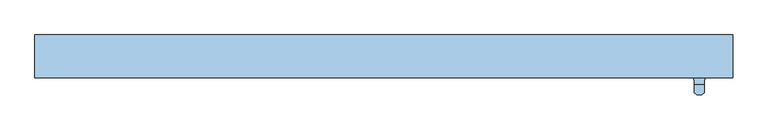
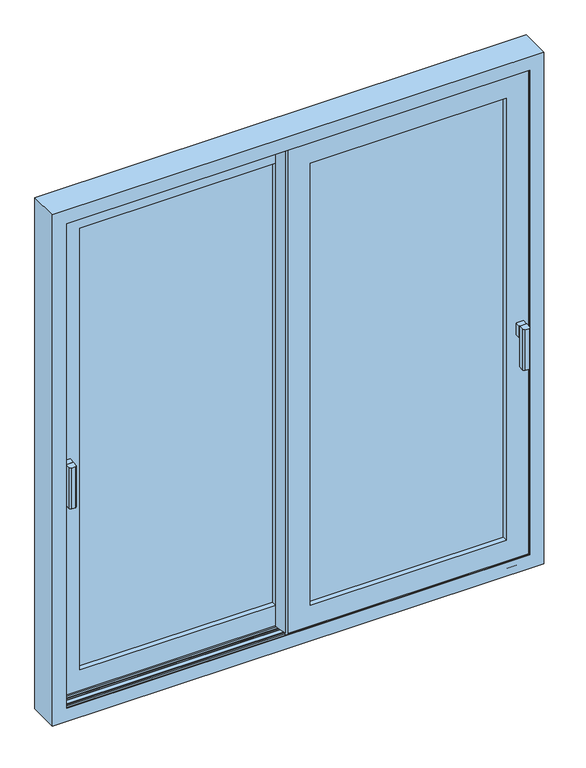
"""IFC4 building model written with IfcOpenShell, lengths in millimetres: window geometry, Windows_Opening-Slide_Exlabesa_ELEVABLE-GR-Balcony-2-Panel-Sliding : ELEVABLE_GR_2000x2000 mm Slide."""

from ifc_helpers import new_model, si_unit, point, frame, frame_2d, origin, place, context, project, spatial, polyline, circle_curve, ellipse_curve, trimmed, segment, composite_curve, outline, extrude, source, transform, mapped, element, save
from ifc_brep_helpers import plane_surface, cylinder_surface, revolved_surface, advanced_brep


def window_d831f5fb(model_context):
    return source(origin(), model_context, "Body", "SolidModel", [
        extrude(outline(composite_curve([segment(trimmed(circle_curve(frame_2d((-147.2565194, 380.4626103)), 200.0), [point((45.9189448, 432.2626103))], [point((52.7425806, 379.8626103))], False, "CARTESIAN"), True, "CONTINUOUS"), segment(polyline([(52.7425806, 379.8626103), (-33.4565194, 379.8626103), (-33.4565194, 333.8344537), (-45.9189448, 333.8344537)]), True, "CONTINUOUS"), segment(trimmed(circle_curve(frame_2d((147.2565194, 385.6344537)), 200.0), [point((-45.9189448, 333.8344537))], [point((-52.7425806, 386.2344537))], False, "CARTESIAN"), True, "CONTINUOUS"), segment(polyline([(-52.7425806, 386.2344537), (33.4565194, 386.2344537), (33.4565194, 432.2626103), (45.9189448, 432.2626103)]), True, "CONTINUOUS")], self_intersect=False)), frame((0.0, 0.0, 60.0), z_axis=(0.0, 0.0, 1.0), x_axis=(1.0, 0.0, 0.0)), (0.0, 0.0, 1.0), 2080.0),
        advanced_brep(
        [(-13.56, 333.798532, 2117.0), (-13.56, 341.048532, 2117.0), (-13.56, 341.048532, 83.0), (-13.56, 333.798532, 83.0), (917.0, 341.048532, 2117.0), (917.0, 341.048532, 83.0), (9.94, 341.048532, 2093.5), (9.94, 341.048532, 106.5), (893.5, 341.048532, 106.5), (893.5, 341.048532, 2093.5), (917.0, 333.798532, 83.0), (949.4076311, 333.798532, 2149.4076311), (949.4076311, 333.798532, 50.5923689), (-45.9676311, 333.798532, 50.5923689), (-45.9676311, 333.798532, 2149.4076311), (917.0, 333.798532, 2117.0), (-36.4282391, 326.798532, 2139.8682391), (-36.4282391, 326.798532, 60.1317609), (939.8682391, 326.798532, 60.1317609), (939.8682391, 326.798532, 2139.8682391), (850.7, 326.798532, 2050.7), (850.7, 326.798532, 149.3), (52.74, 326.798532, 149.3), (52.74, 326.798532, 2050.7), (850.7, 347.798532, 149.3), (850.7, 347.798532, 2050.7), (52.74, 347.798532, 149.3), (52.74, 347.798532, 2050.7), (858.9, 347.798532, 2058.9), (858.9, 347.798532, 141.1), (44.54, 347.798532, 141.1), (44.54, 347.798532, 2058.9), (44.54, 344.798532, 2058.9), (44.54, 344.798532, 141.1), (858.9, 344.798532, 141.1), (872.7, 344.798532, 2072.7), (872.7, 344.798532, 127.3), (30.74, 344.798532, 127.3), (30.74, 344.798532, 2072.7), (858.9, 344.798532, 2058.9), (30.74, 348.898532, 2072.7), (30.74, 348.898532, 127.3), (872.7, 348.898532, 127.3), (877.2, 348.898532, 2077.2), (877.2, 348.898532, 122.8), (26.24, 348.898532, 122.8), (26.24, 348.898532, 2077.2), (872.7, 348.898532, 2072.7), (26.24, 372.298532, 2077.2), (26.24, 372.298532, 122.8), (877.2, 372.298532, 122.8), (877.2, 372.298532, 2077.2), (850.7, 372.298532, 2050.7), (850.7, 372.298532, 149.3), (52.74, 372.298532, 149.3), (52.74, 372.298532, 2050.7), (52.74, 377.298532, 2050.7), (52.74, 377.298532, 149.3), (850.7, 377.298532, 149.3), (939.8682391, 377.298532, 2139.8682391), (939.8682391, 377.298532, 60.1317609), (-36.4282391, 377.298532, 60.1317609), (-36.4282391, 377.298532, 2139.8682391), (850.7, 377.298532, 2050.7), (-45.9676311, 370.298532, 2149.4076311), (-45.9676311, 370.298532, 50.5923689), (949.4076311, 370.298532, 50.5923689), (949.4076311, 370.298532, 2149.4076311), (917.0, 370.298532, 2117.0), (917.0, 370.298532, 83.0), (-13.56, 370.298532, 83.0), (-13.56, 370.298532, 2117.0), (917.0, 363.048532, 83.0), (917.0, 363.048532, 2117.0), (-13.56, 363.048532, 83.0), (-13.56, 363.048532, 2117.0), (893.5, 363.048532, 2093.5), (893.5, 363.048532, 106.5), (9.94, 363.048532, 106.5), (9.94, 363.048532, 2093.5)],
        [
            (0, 1),
            (1, 2),
            (2, 3),
            (3, 0),
            (4, 5),
            (5, 2),
            (1, 4),
            (6, 7),
            (7, 8),
            (8, 9),
            (9, 6),
            (5, 10),
            (10, 3),
            (11, 12),
            (12, 13),
            (13, 14),
            (14, 11),
            (10, 15),
            (15, 0),
            (4, 15),
            (16, 17),
            (17, 18),
            (18, 19),
            (19, 16),
            (20, 21),
            (21, 22),
            (22, 23),
            (23, 20),
            (16, 14, ellipse_curve(frame((-36.4282391, 336.798532, 2139.8682391), z_axis=(-0.7071067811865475, 0.0, -0.7071067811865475), x_axis=(-0.7071067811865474, 0.0, 0.7071067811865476)), 14.1421356, 10.0)),
            (13, 17, ellipse_curve(frame((-36.4282391, 336.798532, 60.1317609), z_axis=(-0.7071067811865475, 0.0, 0.7071067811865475), x_axis=(0.7071067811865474, 0.0, 0.7071067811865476)), 14.1421356, 10.0)),
            (12, 18, ellipse_curve(frame((939.8682391, 336.798532, 60.1317609), z_axis=(-0.7071067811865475, 0.0, -0.7071067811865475), x_axis=(-0.7071067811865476, 0.0, 0.7071067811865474)), 14.1421356, 10.0)),
            (11, 19, ellipse_curve(frame((939.8682391, 336.798532, 2139.8682391), z_axis=(0.7071067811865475, 0.0, -0.7071067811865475), x_axis=(-0.7071067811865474, 0.0, -0.7071067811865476)), 14.1421356, 10.0)),
            (24, 21),
            (20, 25),
            (25, 24),
            (26, 22),
            (24, 26),
            (27, 23),
            (26, 27),
            (28, 29),
            (29, 30),
            (30, 31),
            (31, 28),
            (25, 27),
            (32, 31),
            (30, 33),
            (33, 32),
            (29, 34),
            (34, 33),
            (35, 36),
            (36, 37),
            (37, 38),
            (38, 35),
            (34, 39),
            (39, 32),
            (40, 38),
            (37, 41),
            (41, 40),
            (36, 42),
            (42, 41),
            (43, 44),
            (44, 45),
            (45, 46),
            (46, 43),
            (42, 47),
            (47, 40),
            (48, 46),
            (45, 49),
            (49, 48),
            (44, 50),
            (50, 49),
            (50, 51),
            (51, 48),
            (52, 53),
            (53, 54),
            (54, 55),
            (55, 52),
            (56, 55),
            (54, 57),
            (57, 56),
            (53, 58),
            (58, 57),
            (59, 60),
            (60, 61),
            (61, 62),
            (62, 59),
            (58, 63),
            (63, 56),
            (64, 62, ellipse_curve(frame((-36.4282391, 367.298532, 2139.8682391), z_axis=(-0.7071067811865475, 0.0, -0.7071067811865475), x_axis=(-0.7071067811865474, 0.0, 0.7071067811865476)), 14.1421356, 10.0)),
            (61, 65, ellipse_curve(frame((-36.4282391, 367.298532, 60.1317609), z_axis=(-0.7071067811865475, 0.0, 0.7071067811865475), x_axis=(0.7071067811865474, 0.0, 0.7071067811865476)), 14.1421356, 10.0)),
            (65, 64),
            (60, 66, ellipse_curve(frame((939.8682391, 367.298532, 60.1317609), z_axis=(-0.7071067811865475, 0.0, -0.7071067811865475), x_axis=(-0.7071067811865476, 0.0, 0.7071067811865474)), 14.1421356, 10.0)),
            (66, 65),
            (66, 67),
            (67, 64),
            (68, 69),
            (69, 70),
            (70, 71),
            (71, 68),
            (28, 39),
            (35, 47),
            (43, 51),
            (52, 63),
            (59, 67, ellipse_curve(frame((939.8682391, 367.298532, 2139.8682391), z_axis=(0.7071067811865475, 0.0, -0.7071067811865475), x_axis=(-0.7071067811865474, 0.0, -0.7071067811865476)), 14.1421356, 10.0)),
            (72, 69),
            (68, 73),
            (73, 72),
            (74, 70),
            (72, 74),
            (75, 71),
            (74, 75),
            (73, 75),
            (76, 77),
            (77, 78),
            (78, 79),
            (79, 76),
            (6, 79),
            (78, 7),
            (77, 8),
            (76, 9),
        ],
        [
            plane_surface(frame((-13.56, 341.048532, 2117.0), z_axis=(-1.0, 0.0, 0.0), x_axis=(0.0, 0.0, -1.0))),
            plane_surface(frame((893.5, 341.048532, 106.5), z_axis=(0.0, 1.0, 0.0), x_axis=(0.0, 0.0, 1.0))),
            plane_surface(frame((-13.56, 341.048532, 83.0), z_axis=(0.0, 0.0, -1.0), x_axis=(1.0, 0.0, 0.0))),
            plane_surface(frame((917.0, 333.798532, 83.0), z_axis=(0.0, 1.0, 0.0), x_axis=(0.0, 0.0, 1.0))),
            plane_surface(frame((917.0, 341.048532, 83.0), z_axis=(1.0, 0.0, 0.0), x_axis=(0.0, 0.0, 1.0))),
            plane_surface(frame((939.8682391, 326.798532, 60.1317609), z_axis=(0.0, -1.0, 0.0), x_axis=(0.0, 0.0, 1.0))),
            cylinder_surface(frame((-36.4282391, 336.798532, 2200.0), z_axis=(0.0, 0.0, 1.0), x_axis=(1.0, 0.0, 0.0)), 10.0),
            cylinder_surface(frame((-96.56, 336.798532, 60.1317609), z_axis=(-1.0, 0.0, 0.0), x_axis=(0.0, 0.0, 1.0)), 10.0),
            cylinder_surface(frame((939.8682391, 336.798532, 0.0), z_axis=(0.0, 0.0, -1.0), x_axis=(-1.0, 0.0, 0.0)), 10.0),
            plane_surface(frame((850.7, 326.798532, 149.3), z_axis=(-1.0, 0.0, 0.0), x_axis=(0.0, 0.0, 1.0))),
            plane_surface(frame((52.74, 326.798532, 149.3), z_axis=(0.0, 0.0, 1.0), x_axis=(1.0, 0.0, 0.0))),
            plane_surface(frame((52.74, 326.798532, 2050.7), z_axis=(1.0, 0.0, 0.0), x_axis=(0.0, 0.0, -1.0))),
            plane_surface(frame((850.7, 347.798532, 149.3), z_axis=(0.0, 1.0, 0.0), x_axis=(0.0, 0.0, 1.0))),
            plane_surface(frame((44.54, 347.798532, 2058.9), z_axis=(-1.0, 0.0, 0.0), x_axis=(0.0, 0.0, -1.0))),
            plane_surface(frame((44.54, 347.798532, 141.1), z_axis=(0.0, 0.0, -1.0), x_axis=(1.0, 0.0, 0.0))),
            plane_surface(frame((858.9, 344.798532, 141.1), z_axis=(0.0, 1.0, 0.0), x_axis=(0.0, 0.0, 1.0))),
            plane_surface(frame((30.74, 344.798532, 2072.7), z_axis=(1.0, 0.0, 0.0), x_axis=(0.0, 0.0, -1.0))),
            plane_surface(frame((30.74, 344.798532, 127.3), z_axis=(0.0, 0.0, 1.0), x_axis=(1.0, 0.0, 0.0))),
            plane_surface(frame((872.7, 348.898532, 127.3), z_axis=(0.0, 1.0, 0.0), x_axis=(0.0, 0.0, 1.0))),
            plane_surface(frame((26.24, 348.898532, 2077.2), z_axis=(1.0, 0.0, 0.0), x_axis=(0.0, 0.0, -1.0))),
            plane_surface(frame((26.24, 348.898532, 122.8), z_axis=(0.0, 0.0, 1.0), x_axis=(1.0, 0.0, 0.0))),
            plane_surface(frame((877.2, 372.298532, 122.8), z_axis=(0.0, -1.0, 0.0), x_axis=(0.0, 0.0, 1.0))),
            plane_surface(frame((52.74, 372.298532, 2050.7), z_axis=(1.0, 0.0, 0.0), x_axis=(0.0, 0.0, -1.0))),
            plane_surface(frame((52.74, 372.298532, 149.3), z_axis=(0.0, 0.0, 1.0), x_axis=(1.0, 0.0, 0.0))),
            plane_surface(frame((850.7, 377.298532, 149.3), z_axis=(0.0, 1.0, 0.0), x_axis=(0.0, 0.0, 1.0))),
            cylinder_surface(frame((-36.4282391, 367.298532, 2200.0), z_axis=(0.0, 0.0, 1.0), x_axis=(1.0, 0.0, 0.0)), 10.0),
            cylinder_surface(frame((-96.56, 367.298532, 60.1317609), z_axis=(-1.0, 0.0, 0.0), x_axis=(0.0, 0.0, 1.0)), 10.0),
            plane_surface(frame((949.4076311, 370.298532, 50.5923689), z_axis=(0.0, -1.0, 0.0), x_axis=(0.0, 0.0, 1.0))),
            plane_surface(frame((858.9, 347.798532, 141.1), z_axis=(1.0, 0.0, 0.0), x_axis=(0.0, 0.0, 1.0))),
            plane_surface(frame((872.7, 344.798532, 127.3), z_axis=(-1.0, 0.0, 0.0), x_axis=(0.0, 0.0, 1.0))),
            plane_surface(frame((877.2, 348.898532, 122.8), z_axis=(-1.0, 0.0, 0.0), x_axis=(0.0, 0.0, 1.0))),
            plane_surface(frame((850.7, 372.298532, 149.3), z_axis=(-1.0, 0.0, 0.0), x_axis=(0.0, 0.0, 1.0))),
            cylinder_surface(frame((939.8682391, 367.298532, 0.0), z_axis=(0.0, 0.0, -1.0), x_axis=(-1.0, 0.0, 0.0)), 10.0),
            plane_surface(frame((917.0, 370.298532, 83.0), z_axis=(1.0, 0.0, 0.0), x_axis=(0.0, 0.0, 1.0))),
            plane_surface(frame((-13.56, 370.298532, 83.0), z_axis=(0.0, 0.0, -1.0), x_axis=(1.0, 0.0, 0.0))),
            plane_surface(frame((-13.56, 370.298532, 2117.0), z_axis=(-1.0, 0.0, 0.0), x_axis=(0.0, 0.0, -1.0))),
            plane_surface(frame((917.0, 363.048532, 83.0), z_axis=(0.0, -1.0, 0.0), x_axis=(0.0, 0.0, 1.0))),
            plane_surface(frame((9.94, 363.048532, 2093.5), z_axis=(-1.0, 0.0, 0.0), x_axis=(0.0, 0.0, -1.0))),
            plane_surface(frame((9.94, 363.048532, 106.5), z_axis=(0.0, 0.0, -1.0), x_axis=(1.0, 0.0, 0.0))),
            plane_surface(frame((893.5, 363.048532, 106.5), z_axis=(1.0, 0.0, 0.0), x_axis=(0.0, 0.0, 1.0))),
            plane_surface(frame((917.0, 341.048532, 2117.0), z_axis=(0.0, 0.0, 1.0), x_axis=(-1.0, 0.0, 0.0))),
            plane_surface(frame((850.7, 326.798532, 2050.7), z_axis=(0.0, 0.0, -1.0), x_axis=(-1.0, 0.0, 0.0))),
            plane_surface(frame((858.9, 347.798532, 2058.9), z_axis=(0.0, 0.0, 1.0), x_axis=(-1.0, 0.0, 0.0))),
            plane_surface(frame((872.7, 344.798532, 2072.7), z_axis=(0.0, 0.0, -1.0), x_axis=(-1.0, 0.0, 0.0))),
            plane_surface(frame((877.2, 348.898532, 2077.2), z_axis=(0.0, 0.0, -1.0), x_axis=(-1.0, 0.0, 0.0))),
            plane_surface(frame((850.7, 372.298532, 2050.7), z_axis=(0.0, 0.0, -1.0), x_axis=(-1.0, 0.0, 0.0))),
            cylinder_surface(frame((1000.0, 367.298532, 2139.8682391), z_axis=(1.0, 0.0, 0.0), x_axis=(0.0, 0.0, -1.0)), 10.0),
            cylinder_surface(frame((1000.0, 336.798532, 2139.8682391), z_axis=(1.0, 0.0, 0.0), x_axis=(0.0, 0.0, -1.0)), 10.0),
            plane_surface(frame((917.0, 370.298532, 2117.0), z_axis=(0.0, 0.0, 1.0), x_axis=(-1.0, 0.0, 0.0))),
            plane_surface(frame((893.5, 363.048532, 2093.5), z_axis=(0.0, 0.0, 1.0), x_axis=(-1.0, 0.0, 0.0))),
        ],
        [
            (0, [[1, 2, 3, 4]]),
            (1, [[5, 6, -2, 7], [8, 9, 10, 11]]),
            (2, [[-3, -6, 12, 13]]),
            (3, [[14, 15, 16, 17], [-4, -13, 18, 19]]),
            (4, [[-12, -5, 20, -18]]),
            (5, [[21, 22, 23, 24], [25, 26, 27, 28]]),
            (6, [[29, -16, 30, -21]]),
            (7, [[-30, -15, 31, -22]]),
            (8, [[-31, -14, 32, -23]]),
            (9, [[33, -25, 34, 35]]),
            (10, [[36, -26, -33, 37]]),
            (11, [[38, -27, -36, 39]]),
            (12, [[40, 41, 42, 43], [-39, -37, -35, 44]]),
            (13, [[45, -42, 46, 47]]),
            (14, [[-46, -41, 48, 49]]),
            (15, [[50, 51, 52, 53], [-47, -49, 54, 55]]),
            (16, [[56, -52, 57, 58]]),
            (17, [[-57, -51, 59, 60]]),
            (18, [[61, 62, 63, 64], [-58, -60, 65, 66]]),
            (19, [[67, -63, 68, 69]]),
            (20, [[-68, -62, 70, 71]]),
            (21, [[-69, -71, 72, 73], [74, 75, 76, 77]]),
            (22, [[78, -76, 79, 80]]),
            (23, [[-79, -75, 81, 82]]),
            (24, [[83, 84, 85, 86], [-80, -82, 87, 88]]),
            (25, [[89, -85, 90, 91]]),
            (26, [[-90, -84, 92, 93]]),
            (27, [[-91, -93, 94, 95], [96, 97, 98, 99]]),
            (28, [[-48, -40, 100, -54]]),
            (29, [[-59, -50, 101, -65]]),
            (30, [[-70, -61, 102, -72]]),
            (31, [[-81, -74, 103, -87]]),
            (32, [[-92, -83, 104, -94]]),
            (33, [[105, -96, 106, 107]]),
            (34, [[108, -97, -105, 109]]),
            (35, [[110, -98, -108, 111]]),
            (36, [[-111, -109, -107, 112], [113, 114, 115, 116]]),
            (37, [[117, -115, 118, -8]]),
            (38, [[-118, -114, 119, -9]]),
            (39, [[-119, -113, 120, -10]]),
            (40, [[-20, -7, -1, -19]]),
            (41, [[-34, -28, -38, -44]]),
            (42, [[-100, -43, -45, -55]]),
            (43, [[-101, -53, -56, -66]]),
            (44, [[-102, -64, -67, -73]]),
            (45, [[-103, -77, -78, -88]]),
            (46, [[-104, -86, -89, -95]]),
            (47, [[-32, -17, -29, -24]]),
            (48, [[-106, -99, -110, -112]]),
            (49, [[-120, -116, -117, -11]]),
        ],
    ),
        advanced_brep(
        [(-1000.0, 321.548532, 2200.0), (-1000.0, 444.548532, 2200.0), (-1000.0, 444.548532, 0.0), (-1000.0, 321.548532, 0.0), (1000.0, 444.548532, 2200.0), (1000.0, 444.548532, 0.0), (-972.7679492, 444.548532, 2172.7679492), (-972.7679492, 444.548532, 27.2320508), (972.7679492, 444.548532, 27.2320508), (972.7679492, 444.548532, 2172.7679492), (1000.0, 321.548532, 0.0), (1000.0, 321.548532, 2200.0), (942.0, 321.548532, 2142.0), (942.0, 321.548532, 58.0), (-942.0, 321.548532, 58.0), (-942.0, 321.548532, 2142.0), (-960.2971834, 422.948532, 2160.2971834), (-960.2971834, 422.948532, 39.7028166), (960.2971834, 422.948532, 39.7028166), (960.2971834, 422.948532, 2160.2971834), (-942.0, 323.348532, 2142.0), (-942.0, 323.348532, 58.0), (942.0, 323.348532, 58.0), (968.0, 323.348532, 2168.0), (968.0, 323.348532, 32.0), (-968.0, 323.348532, 32.0), (-968.0, 323.348532, 2168.0), (942.0, 323.348532, 2142.0), (-969.7320508, 326.348532, 2169.7320508), (-969.7320508, 326.348532, 30.2679492), (969.7320508, 326.348532, 30.2679492), (-960.0325663, 343.148532, 2160.0325663), (-960.0325663, 343.148532, 39.9674337), (960.0325663, 343.148532, 39.9674337), (960.0325663, 343.148532, 2160.0325663), (945.0, 343.148532, 2145.0), (945.0, 343.148532, 55.0), (-945.0, 343.148532, 55.0), (-945.0, 343.148532, 2145.0), (-945.0, 336.798532, 2145.0), (-945.0, 336.798532, 55.0), (945.0, 336.798532, 55.0), (945.0, 336.798532, 2145.0), (940.0, 336.798532, 2140.0), (940.0, 336.798532, 60.0), (-940.0, 336.798532, 60.0), (-940.0, 336.798532, 2140.0), (-940.0, 341.748532, 2140.0), (-940.0, 341.748532, 60.0), (940.0, 341.748532, 60.0), (942.0, 341.748532, 2142.0), (942.0, 341.748532, 58.0), (-942.0, 341.748532, 58.0), (-942.0, 341.748532, 2142.0), (940.0, 341.748532, 2140.0), (-942.0, 362.348532, 2142.0), (-942.0, 362.348532, 58.0), (942.0, 362.348532, 58.0), (942.0, 362.348532, 2142.0), (940.0, 362.348532, 2140.0), (940.0, 362.348532, 60.0), (-940.0, 362.348532, 60.0), (-940.0, 362.348532, 2140.0), (-940.0, 367.298532, 2140.0), (-940.0, 367.298532, 60.0), (940.0, 367.298532, 60.0), (945.0, 367.298532, 2145.0), (945.0, 367.298532, 55.0), (-945.0, 367.298532, 55.0), (-945.0, 367.298532, 2145.0), (940.0, 367.298532, 2140.0), (-945.0, 362.748532, 2145.0), (-945.0, 362.748532, 55.0), (945.0, 362.748532, 55.0), (964.5240287, 362.748532, 2164.5240287), (964.5240287, 362.748532, 35.4759713), (-964.5240287, 362.748532, 35.4759713), (-964.5240287, 362.748532, 2164.5240287), (945.0, 362.748532, 2145.0), (-965.2327287, 403.348532, 2165.2327287), (-965.2327287, 403.348532, 34.7672713), (965.2327287, 403.348532, 34.7672713), (965.2327287, 403.348532, 2165.2327287), (945.0, 403.348532, 2145.0), (945.0, 403.348532, 55.0), (-945.0, 403.348532, 55.0), (-945.0, 403.348532, 2145.0), (-945.0, 398.798532, 2145.0), (-945.0, 398.798532, 55.0), (945.0, 398.798532, 55.0), (945.0, 398.798532, 2145.0), (940.0, 398.798532, 2140.0), (940.0, 398.798532, 60.0), (-940.0, 398.798532, 60.0), (-940.0, 398.798532, 2140.0), (-940.0, 403.748532, 2140.0), (-940.0, 403.748532, 60.0), (940.0, 403.748532, 60.0), (942.0, 403.748532, 2142.0), (942.0, 403.748532, 58.0), (-942.0, 403.748532, 58.0), (-942.0, 403.748532, 2142.0), (940.0, 403.748532, 2140.0), (-942.0, 424.348532, 2142.0), (-942.0, 424.348532, 58.0), (942.0, 424.348532, 58.0), (942.0, 424.348532, 2142.0), (940.0, 424.348532, 2140.0), (940.0, 424.348532, 60.0), (-940.0, 424.348532, 60.0), (-940.0, 424.348532, 2140.0), (-940.0, 429.298532, 2140.0), (-940.0, 429.298532, 60.0), (940.0, 429.298532, 60.0), (945.0, 429.298532, 2145.0), (945.0, 429.298532, 55.0), (-945.0, 429.298532, 55.0), (-945.0, 429.298532, 2145.0), (940.0, 429.298532, 2140.0), (-945.0, 422.948532, 2145.0), (-945.0, 422.948532, 55.0), (945.0, 422.948532, 55.0), (945.0, 422.948532, 2145.0), (969.7320508, 326.348532, 2169.7320508)],
        [
            (0, 1),
            (1, 2),
            (2, 3),
            (3, 0),
            (4, 5),
            (5, 2),
            (1, 4),
            (6, 7),
            (7, 8),
            (8, 9),
            (9, 6),
            (5, 10),
            (10, 3),
            (10, 11),
            (11, 0),
            (12, 13),
            (13, 14),
            (14, 15),
            (15, 12),
            (4, 11),
            (6, 16),
            (16, 17),
            (17, 7),
            (17, 18),
            (18, 8),
            (18, 19),
            (19, 9),
            (20, 15),
            (14, 21),
            (21, 20),
            (13, 22),
            (22, 21),
            (23, 24),
            (24, 25),
            (25, 26),
            (26, 23),
            (22, 27),
            (27, 20),
            (28, 26, ellipse_curve(frame((-968.0, 325.348532, 2168.0), z_axis=(0.7071067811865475, 0.0, 0.7071067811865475), x_axis=(0.7071067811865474, 0.0, -0.7071067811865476)), 2.8284271, 2.0)),
            (25, 29, ellipse_curve(frame((-968.0, 325.348532, 32.0), z_axis=(0.7071067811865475, 0.0, -0.7071067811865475), x_axis=(-0.7071067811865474, 0.0, -0.7071067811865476)), 2.8284271, 2.0)),
            (29, 28),
            (24, 30, ellipse_curve(frame((968.0, 325.348532, 32.0), z_axis=(0.7071067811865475, 0.0, 0.7071067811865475), x_axis=(0.7071067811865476, 0.0, -0.7071067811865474)), 2.8284271, 2.0)),
            (30, 29),
            (31, 28),
            (29, 32),
            (32, 31),
            (30, 33),
            (33, 32),
            (33, 34),
            (34, 31),
            (35, 36),
            (36, 37),
            (37, 38),
            (38, 35),
            (39, 38),
            (37, 40),
            (40, 39),
            (36, 41),
            (41, 40),
            (41, 42),
            (42, 39),
            (43, 44),
            (44, 45),
            (45, 46),
            (46, 43),
            (47, 46),
            (45, 48),
            (48, 47),
            (44, 49),
            (49, 48),
            (50, 51),
            (51, 52),
            (52, 53),
            (53, 50),
            (49, 54),
            (54, 47),
            (55, 53),
            (52, 56),
            (56, 55),
            (51, 57),
            (57, 56),
            (57, 58),
            (58, 55),
            (59, 60),
            (60, 61),
            (61, 62),
            (62, 59),
            (63, 62),
            (61, 64),
            (64, 63),
            (60, 65),
            (65, 64),
            (66, 67),
            (67, 68),
            (68, 69),
            (69, 66),
            (65, 70),
            (70, 63),
            (71, 69),
            (68, 72),
            (72, 71),
            (67, 73),
            (73, 72),
            (74, 75),
            (75, 76),
            (76, 77),
            (77, 74),
            (73, 78),
            (78, 71),
            (79, 77),
            (76, 80),
            (80, 79),
            (75, 81),
            (81, 80),
            (81, 82),
            (82, 79),
            (83, 84),
            (84, 85),
            (85, 86),
            (86, 83),
            (87, 86),
            (85, 88),
            (88, 87),
            (84, 89),
            (89, 88),
            (89, 90),
            (90, 87),
            (91, 92),
            (92, 93),
            (93, 94),
            (94, 91),
            (95, 94),
            (93, 96),
            (96, 95),
            (92, 97),
            (97, 96),
            (98, 99),
            (99, 100),
            (100, 101),
            (101, 98),
            (97, 102),
            (102, 95),
            (103, 101),
            (100, 104),
            (104, 103),
            (99, 105),
            (105, 104),
            (105, 106),
            (106, 103),
            (107, 108),
            (108, 109),
            (109, 110),
            (110, 107),
            (111, 110),
            (109, 112),
            (112, 111),
            (108, 113),
            (113, 112),
            (114, 115),
            (115, 116),
            (116, 117),
            (117, 114),
            (113, 118),
            (118, 111),
            (119, 117),
            (116, 120),
            (120, 119),
            (115, 121),
            (121, 120),
            (16, 19),
            (121, 122),
            (122, 119),
            (12, 27),
            (23, 123, ellipse_curve(frame((968.0, 325.348532, 2168.0), z_axis=(-0.7071067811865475, 0.0, 0.7071067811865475), x_axis=(0.7071067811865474, 0.0, 0.7071067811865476)), 2.8284271, 2.0)),
            (123, 30),
            (123, 34),
            (35, 42),
            (43, 54),
            (50, 58),
            (59, 70),
            (66, 78),
            (74, 82),
            (83, 90),
            (91, 102),
            (98, 106),
            (107, 118),
            (114, 122),
            (28, 123),
        ],
        [
            plane_surface(frame((-1000.0, 444.548532, 2200.0), z_axis=(-1.0, 0.0, 0.0), x_axis=(0.0, 0.0, -1.0))),
            plane_surface(frame((972.7679492, 444.548532, 27.2320508), z_axis=(0.0, 1.0, 0.0), x_axis=(0.0, 0.0, 1.0))),
            plane_surface(frame((-1000.0, 444.548532, 0.0), z_axis=(0.0, 0.0, -1.0), x_axis=(1.0, 0.0, 0.0))),
            plane_surface(frame((1000.0, 321.548532, 0.0), z_axis=(0.0, -1.0, 0.0), x_axis=(0.0, 0.0, 1.0))),
            plane_surface(frame((1000.0, 444.548532, 0.0), z_axis=(1.0, 0.0, 0.0), x_axis=(0.0, 0.0, 1.0))),
            plane_surface(frame((-960.2971834, 422.948532, 2160.2971834), z_axis=(0.8660254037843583, 0.5000000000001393, 0.0), x_axis=(0.0, 0.0, -1.0))),
            plane_surface(frame((-960.2971834, 422.948532, 39.7028166), z_axis=(0.0, 0.5000000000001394, 0.8660254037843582), x_axis=(1.0, 0.0, 0.0))),
            plane_surface(frame((960.2971834, 422.948532, 39.7028166), z_axis=(-0.8660254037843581, 0.5000000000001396, 0.0), x_axis=(0.0, 0.0, 1.0))),
            plane_surface(frame((-942.0, 321.548532, 2142.0), z_axis=(1.0, 0.0, 0.0), x_axis=(0.0, 0.0, -1.0))),
            plane_surface(frame((-942.0, 321.548532, 58.0), z_axis=(0.0, 0.0, 1.0), x_axis=(1.0, 0.0, 0.0))),
            plane_surface(frame((942.0, 323.348532, 58.0), z_axis=(0.0, 1.0, 0.0), x_axis=(0.0, 0.0, 1.0))),
            revolved_surface(polyline([(-966.0, 325.348532, 30.000000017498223), (-966.0, 325.348532, 2169.999999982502)]), (-968.0, 325.348532, 2200.0), (0.0, 0.0, -1.0)),
            revolved_surface(polyline([(969.9999999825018, 325.348532, 34.0), (-969.9999999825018, 325.348532, 34.0)]), (-1000.0, 325.348532, 32.0), (1.0, 0.0, 0.0)),
            plane_surface(frame((-969.7320508, 326.348532, 2169.7320508), z_axis=(0.8660254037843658, -0.5000000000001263, 0.0), x_axis=(0.0, 0.0, -1.0))),
            plane_surface(frame((-969.7320508, 326.348532, 30.2679492), z_axis=(0.0, -0.5000000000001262, 0.8660254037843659), x_axis=(1.0, 0.0, 0.0))),
            plane_surface(frame((960.0325663, 343.148532, 39.9674337), z_axis=(0.0, -1.0, 0.0), x_axis=(0.0, 0.0, 1.0))),
            plane_surface(frame((-945.0, 343.148532, 2145.0), z_axis=(-1.0, 0.0, 0.0), x_axis=(0.0, 0.0, -1.0))),
            plane_surface(frame((-945.0, 343.148532, 55.0), z_axis=(0.0, 0.0, -1.0), x_axis=(1.0, 0.0, 0.0))),
            plane_surface(frame((945.0, 336.798532, 55.0), z_axis=(0.0, -1.0, 0.0), x_axis=(0.0, 0.0, 1.0))),
            plane_surface(frame((-940.0, 336.798532, 2140.0), z_axis=(1.0, 0.0, 0.0), x_axis=(0.0, 0.0, -1.0))),
            plane_surface(frame((-940.0, 336.798532, 60.0), z_axis=(0.0, 0.0, 1.0), x_axis=(1.0, 0.0, 0.0))),
            plane_surface(frame((940.0, 341.748532, 60.0), z_axis=(0.0, 1.0, 0.0), x_axis=(0.0, 0.0, 1.0))),
            plane_surface(frame((-942.0, 341.748532, 2142.0), z_axis=(1.0, 0.0, 0.0), x_axis=(0.0, 0.0, -1.0))),
            plane_surface(frame((-942.0, 341.748532, 58.0), z_axis=(0.0, 0.0, 1.0), x_axis=(1.0, 0.0, 0.0))),
            plane_surface(frame((942.0, 362.348532, 58.0), z_axis=(0.0, -1.0, 0.0), x_axis=(0.0, 0.0, 1.0))),
            plane_surface(frame((-940.0, 362.348532, 2140.0), z_axis=(1.0, 0.0, 0.0), x_axis=(0.0, 0.0, -1.0))),
            plane_surface(frame((-940.0, 362.348532, 60.0), z_axis=(0.0, 0.0, 1.0), x_axis=(1.0, 0.0, 0.0))),
            plane_surface(frame((940.0, 367.298532, 60.0), z_axis=(0.0, 1.0, 0.0), x_axis=(0.0, 0.0, 1.0))),
            plane_surface(frame((-945.0, 367.298532, 2145.0), z_axis=(-1.0, 0.0, 0.0), x_axis=(0.0, 0.0, -1.0))),
            plane_surface(frame((-945.0, 367.298532, 55.0), z_axis=(0.0, 0.0, -1.0), x_axis=(1.0, 0.0, 0.0))),
            plane_surface(frame((945.0, 362.748532, 55.0), z_axis=(0.0, 1.0, 0.0), x_axis=(0.0, 0.0, 1.0))),
            plane_surface(frame((-964.5240287, 362.748532, 2164.5240287), z_axis=(0.999847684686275, 0.01745300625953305, 0.0), x_axis=(0.0, 0.0, -1.0))),
            plane_surface(frame((-964.5240287, 362.748532, 35.4759713), z_axis=(0.0, 0.017453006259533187, 0.999847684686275), x_axis=(1.0, 0.0, 0.0))),
            plane_surface(frame((965.2327287, 403.348532, 34.7672713), z_axis=(0.0, -1.0, 0.0), x_axis=(0.0, 0.0, 1.0))),
            plane_surface(frame((-945.0, 403.348532, 2145.0), z_axis=(-1.0, 0.0, 0.0), x_axis=(0.0, 0.0, -1.0))),
            plane_surface(frame((-945.0, 403.348532, 55.0), z_axis=(0.0, 0.0, -1.0), x_axis=(1.0, 0.0, 0.0))),
            plane_surface(frame((945.0, 398.798532, 55.0), z_axis=(0.0, -1.0, 0.0), x_axis=(0.0, 0.0, 1.0))),
            plane_surface(frame((-940.0, 398.798532, 2140.0), z_axis=(1.0, 0.0, 0.0), x_axis=(0.0, 0.0, -1.0))),
            plane_surface(frame((-940.0, 398.798532, 60.0), z_axis=(0.0, 0.0, 1.0), x_axis=(1.0, 0.0, 0.0))),
            plane_surface(frame((940.0, 403.748532, 60.0), z_axis=(0.0, 1.0, 0.0), x_axis=(0.0, 0.0, 1.0))),
            plane_surface(frame((-942.0, 403.748532, 2142.0), z_axis=(1.0, 0.0, 0.0), x_axis=(0.0, 0.0, -1.0))),
            plane_surface(frame((-942.0, 403.748532, 58.0), z_axis=(0.0, 0.0, 1.0), x_axis=(1.0, 0.0, 0.0))),
            plane_surface(frame((942.0, 424.348532, 58.0), z_axis=(0.0, -1.0, 0.0), x_axis=(0.0, 0.0, 1.0))),
            plane_surface(frame((-940.0, 424.348532, 2140.0), z_axis=(1.0, 0.0, 0.0), x_axis=(0.0, 0.0, -1.0))),
            plane_surface(frame((-940.0, 424.348532, 60.0), z_axis=(0.0, 0.0, 1.0), x_axis=(1.0, 0.0, 0.0))),
            plane_surface(frame((940.0, 429.298532, 60.0), z_axis=(0.0, 1.0, 0.0), x_axis=(0.0, 0.0, 1.0))),
            plane_surface(frame((-945.0, 429.298532, 2145.0), z_axis=(-1.0, 0.0, 0.0), x_axis=(0.0, 0.0, -1.0))),
            plane_surface(frame((-945.0, 429.298532, 55.0), z_axis=(0.0, 0.0, -1.0), x_axis=(1.0, 0.0, 0.0))),
            plane_surface(frame((945.0, 422.948532, 55.0), z_axis=(0.0, 1.0, 0.0), x_axis=(0.0, 0.0, 1.0))),
            plane_surface(frame((942.0, 321.548532, 58.0), z_axis=(-1.0, 0.0, 0.0), x_axis=(0.0, 0.0, 1.0))),
            revolved_surface(polyline([(966.0, 325.348532, 2169.999999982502), (966.0, 325.348532, 30.0000000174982)]), (968.0, 325.348532, 0.0), (0.0, 0.0, 1.0)),
            plane_surface(frame((969.7320508, 326.348532, 30.2679492), z_axis=(-0.866025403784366, -0.5000000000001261, 0.0), x_axis=(0.0, 0.0, 1.0))),
            plane_surface(frame((945.0, 343.148532, 55.0), z_axis=(1.0, 0.0, 0.0), x_axis=(0.0, 0.0, 1.0))),
            plane_surface(frame((940.0, 336.798532, 60.0), z_axis=(-1.0, 0.0, 0.0), x_axis=(0.0, 0.0, 1.0))),
            plane_surface(frame((942.0, 341.748532, 58.0), z_axis=(-1.0, 0.0, 0.0), x_axis=(0.0, 0.0, 1.0))),
            plane_surface(frame((940.0, 362.348532, 60.0), z_axis=(-1.0, 0.0, 0.0), x_axis=(0.0, 0.0, 1.0))),
            plane_surface(frame((945.0, 367.298532, 55.0), z_axis=(1.0, 0.0, 0.0), x_axis=(0.0, 0.0, 1.0))),
            plane_surface(frame((964.5240287, 362.748532, 35.4759713), z_axis=(-0.999847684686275, 0.017453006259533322, 0.0), x_axis=(0.0, 0.0, 1.0))),
            plane_surface(frame((945.0, 403.348532, 55.0), z_axis=(1.0, 0.0, 0.0), x_axis=(0.0, 0.0, 1.0))),
            plane_surface(frame((940.0, 398.798532, 60.0), z_axis=(-1.0, 0.0, 0.0), x_axis=(0.0, 0.0, 1.0))),
            plane_surface(frame((942.0, 403.748532, 58.0), z_axis=(-1.0, 0.0, 0.0), x_axis=(0.0, 0.0, 1.0))),
            plane_surface(frame((940.0, 424.348532, 60.0), z_axis=(-1.0, 0.0, 0.0), x_axis=(0.0, 0.0, 1.0))),
            plane_surface(frame((945.0, 429.298532, 55.0), z_axis=(1.0, 0.0, 0.0), x_axis=(0.0, 0.0, 1.0))),
            plane_surface(frame((1000.0, 444.548532, 2200.0), z_axis=(0.0, 0.0, 1.0), x_axis=(-1.0, 0.0, 0.0))),
            plane_surface(frame((942.0, 321.548532, 2142.0), z_axis=(0.0, 0.0, -1.0), x_axis=(-1.0, 0.0, 0.0))),
            revolved_surface(polyline([(-969.9999999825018, 325.348532, 2166.0), (969.9999999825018, 325.348532, 2166.0)]), (1000.0, 325.348532, 2168.0), (-1.0, 0.0, 0.0)),
            plane_surface(frame((969.7320508, 326.348532, 2169.7320508), z_axis=(0.0, -0.5000000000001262, -0.8660254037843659), x_axis=(-1.0, 0.0, 0.0))),
            plane_surface(frame((945.0, 343.148532, 2145.0), z_axis=(0.0, 0.0, 1.0), x_axis=(-1.0, 0.0, 0.0))),
            plane_surface(frame((940.0, 336.798532, 2140.0), z_axis=(0.0, 0.0, -1.0), x_axis=(-1.0, 0.0, 0.0))),
            plane_surface(frame((942.0, 341.748532, 2142.0), z_axis=(0.0, 0.0, -1.0), x_axis=(-1.0, 0.0, 0.0))),
            plane_surface(frame((940.0, 362.348532, 2140.0), z_axis=(0.0, 0.0, -1.0), x_axis=(-1.0, 0.0, 0.0))),
            plane_surface(frame((945.0, 367.298532, 2145.0), z_axis=(0.0, 0.0, 1.0), x_axis=(-1.0, 0.0, 0.0))),
            plane_surface(frame((964.5240287, 362.748532, 2164.5240287), z_axis=(0.0, 0.017453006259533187, -0.999847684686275), x_axis=(-1.0, 0.0, 0.0))),
            plane_surface(frame((945.0, 403.348532, 2145.0), z_axis=(0.0, 0.0, 1.0), x_axis=(-1.0, 0.0, 0.0))),
            plane_surface(frame((940.0, 398.798532, 2140.0), z_axis=(0.0, 0.0, -1.0), x_axis=(-1.0, 0.0, 0.0))),
            plane_surface(frame((942.0, 403.748532, 2142.0), z_axis=(0.0, 0.0, -1.0), x_axis=(-1.0, 0.0, 0.0))),
            plane_surface(frame((940.0, 424.348532, 2140.0), z_axis=(0.0, 0.0, -1.0), x_axis=(-1.0, 0.0, 0.0))),
            plane_surface(frame((945.0, 429.298532, 2145.0), z_axis=(0.0, 0.0, 1.0), x_axis=(-1.0, 0.0, 0.0))),
            plane_surface(frame((960.2971834, 422.948532, 2160.2971834), z_axis=(0.0, 0.5000000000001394, -0.8660254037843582), x_axis=(-1.0, 0.0, 0.0))),
        ],
        [
            (0, [[1, 2, 3, 4]]),
            (1, [[5, 6, -2, 7], [8, 9, 10, 11]]),
            (2, [[-3, -6, 12, 13]]),
            (3, [[-4, -13, 14, 15], [16, 17, 18, 19]]),
            (4, [[-12, -5, 20, -14]]),
            (5, [[21, 22, 23, -8]]),
            (6, [[-23, 24, 25, -9]]),
            (7, [[-25, 26, 27, -10]]),
            (8, [[28, -18, 29, 30]]),
            (9, [[-29, -17, 31, 32]]),
            (10, [[33, 34, 35, 36], [-30, -32, 37, 38]]),
            (11, [[39, -35, 40, 41]]),
            (12, [[-40, -34, 42, 43]]),
            (13, [[44, -41, 45, 46]]),
            (14, [[-45, -43, 47, 48]]),
            (15, [[-46, -48, 49, 50], [51, 52, 53, 54]]),
            (16, [[55, -53, 56, 57]]),
            (17, [[-56, -52, 58, 59]]),
            (18, [[-57, -59, 60, 61], [62, 63, 64, 65]]),
            (19, [[66, -64, 67, 68]]),
            (20, [[-67, -63, 69, 70]]),
            (21, [[71, 72, 73, 74], [-68, -70, 75, 76]]),
            (22, [[77, -73, 78, 79]]),
            (23, [[-78, -72, 80, 81]]),
            (24, [[-79, -81, 82, 83], [84, 85, 86, 87]]),
            (25, [[88, -86, 89, 90]]),
            (26, [[-89, -85, 91, 92]]),
            (27, [[93, 94, 95, 96], [-90, -92, 97, 98]]),
            (28, [[99, -95, 100, 101]]),
            (29, [[-100, -94, 102, 103]]),
            (30, [[104, 105, 106, 107], [-101, -103, 108, 109]]),
            (31, [[110, -106, 111, 112]]),
            (32, [[-111, -105, 113, 114]]),
            (33, [[-112, -114, 115, 116], [117, 118, 119, 120]]),
            (34, [[121, -119, 122, 123]]),
            (35, [[-122, -118, 124, 125]]),
            (36, [[-123, -125, 126, 127], [128, 129, 130, 131]]),
            (37, [[132, -130, 133, 134]]),
            (38, [[-133, -129, 135, 136]]),
            (39, [[137, 138, 139, 140], [-134, -136, 141, 142]]),
            (40, [[143, -139, 144, 145]]),
            (41, [[-144, -138, 146, 147]]),
            (42, [[-145, -147, 148, 149], [150, 151, 152, 153]]),
            (43, [[154, -152, 155, 156]]),
            (44, [[-155, -151, 157, 158]]),
            (45, [[159, 160, 161, 162], [-156, -158, 163, 164]]),
            (46, [[165, -161, 166, 167]]),
            (47, [[-166, -160, 168, 169]]),
            (48, [[-26, -24, -22, 170], [-167, -169, 171, 172]]),
            (49, [[-31, -16, 173, -37]]),
            (50, [[-42, -33, 174, 175]]),
            (51, [[-47, -175, 176, -49]]),
            (52, [[-58, -51, 177, -60]]),
            (53, [[-69, -62, 178, -75]]),
            (54, [[-80, -71, 179, -82]]),
            (55, [[-91, -84, 180, -97]]),
            (56, [[-102, -93, 181, -108]]),
            (57, [[-113, -104, 182, -115]]),
            (58, [[-124, -117, 183, -126]]),
            (59, [[-135, -128, 184, -141]]),
            (60, [[-146, -137, 185, -148]]),
            (61, [[-157, -150, 186, -163]]),
            (62, [[-168, -159, 187, -171]]),
            (63, [[-20, -7, -1, -15]]),
            (64, [[-173, -19, -28, -38]]),
            (65, [[-174, -36, -39, 188]]),
            (66, [[-176, -188, -44, -50]]),
            (67, [[-177, -54, -55, -61]]),
            (68, [[-178, -65, -66, -76]]),
            (69, [[-179, -74, -77, -83]]),
            (70, [[-180, -87, -88, -98]]),
            (71, [[-181, -96, -99, -109]]),
            (72, [[-182, -107, -110, -116]]),
            (73, [[-183, -120, -121, -127]]),
            (74, [[-184, -131, -132, -142]]),
            (75, [[-185, -140, -143, -149]]),
            (76, [[-186, -153, -154, -164]]),
            (77, [[-187, -162, -165, -172]]),
            (78, [[-27, -170, -21, -11]]),
        ],
    ),
        extrude(outline(polyline([(918.7551549, 302.1960829), (918.7551549, 279.5458754), (912.286663, 273.0773836), (896.7631033, 273.0773836), (890.2946114, 279.5458754), (890.2946114, 302.1960829), (918.7551549, 302.1960829)])), frame((0.0, 0.0, 896.24), z_axis=(0.0, 0.0, 1.0), x_axis=(1.0, 0.0, 0.0)), (0.0, 0.0, 1.0), 175.0),
        extrude(outline(polyline([(918.8087599, 303.1987559), (917.4910378, 303.1987559), (917.4910378, 302.1960829), (891.5587285, 302.1960829), (891.5587285, 303.1987559), (890.2410064, 303.1987559), (888.9544282, 326.798532), (920.0455718, 326.798532), (918.8087599, 303.1987559)])), frame((0.0, 0.0, 1021.24), z_axis=(0.0, 0.0, 1.0), x_axis=(1.0, 0.0, 0.0)), (0.0, 0.0, 1.0), 50.0),
        extrude(outline(polyline([(-890.2697283, 364.1960829), (-890.2697283, 341.5458754), (-896.7382202, 335.0773836), (-912.2617798, 335.0773836), (-918.7302717, 341.5458754), (-918.7302717, 364.1960829), (-890.2697283, 364.1960829)])), frame((0.0, 0.0, 896.24), z_axis=(0.0, 0.0, 1.0), x_axis=(1.0, 0.0, 0.0)), (0.0, 0.0, 1.0), 175.0),
        extrude(outline(polyline([(-890.2161232, 365.1987559), (-891.5338454, 365.1987559), (-891.5338454, 364.1960829), (-917.4661546, 364.1960829), (-917.4661546, 365.1987559), (-918.7838768, 365.1987559), (-920.0704549, 388.798532), (-888.9793114, 388.798532), (-890.2161232, 365.1987559)])), frame((0.0, 0.0, 1021.24), z_axis=(0.0, 0.0, 1.0), x_axis=(1.0, 0.0, 0.0)), (0.0, 0.0, 1.0), 50.0),
        advanced_brep(
        [(13.56, 403.048532, 2117.0), (13.56, 395.798532, 2117.0), (13.56, 395.798532, 83.0), (13.56, 403.048532, 83.0), (45.9676311, 395.798532, 2149.4076311), (45.9676311, 395.798532, 50.5923689), (-949.4076311, 395.798532, 50.5923689), (-949.4076311, 395.798532, 2149.4076311), (-917.0, 395.798532, 2117.0), (-917.0, 395.798532, 83.0), (-917.0, 403.048532, 83.0), (-917.0, 403.048532, 2117.0), (-893.5, 403.048532, 2093.5), (-893.5, 403.048532, 106.5), (-9.94, 403.048532, 106.5), (-9.94, 403.048532, 2093.5), (-939.8682391, 388.798532, 2139.8682391), (-939.8682391, 388.798532, 60.1317609), (36.4282391, 388.798532, 60.1317609), (36.4282391, 388.798532, 2139.8682391), (-52.74, 388.798532, 2050.7), (-52.74, 388.798532, 149.3), (-850.7, 388.798532, 149.3), (-850.7, 388.798532, 2050.7), (-52.74, 409.798532, 2050.7), (-52.74, 409.798532, 149.3), (-850.7, 409.798532, 149.3), (-850.7, 409.798532, 2050.7), (36.4282391, 439.298532, 2139.8682391), (45.9676311, 432.298532, 2149.4076311), (45.9676311, 432.298532, 50.5923689), (36.4282391, 439.298532, 60.1317609), (-949.4076311, 432.298532, 2149.4076311), (-949.4076311, 432.298532, 50.5923689), (13.56, 432.298532, 2117.0), (13.56, 432.298532, 83.0), (-917.0, 432.298532, 83.0), (-917.0, 432.298532, 2117.0), (-939.8682391, 439.298532, 60.1317609), (-939.8682391, 439.298532, 2139.8682391), (-850.7, 439.298532, 2050.7), (-850.7, 439.298532, 149.3), (-52.74, 439.298532, 149.3), (-52.74, 439.298532, 2050.7), (-52.74, 434.298532, 2050.7), (-52.74, 434.298532, 149.3), (-850.7, 434.298532, 149.3), (-877.3, 434.298532, 2077.3), (-877.3, 434.298532, 122.7), (-26.14, 434.298532, 122.7), (-26.14, 434.298532, 2077.3), (-850.7, 434.298532, 2050.7), (-26.14, 410.898532, 2077.3), (-26.14, 410.898532, 122.7), (-877.3, 410.898532, 122.7), (-877.3, 410.898532, 2077.3), (-872.7, 410.898532, 2072.7), (-872.7, 410.898532, 127.3), (-30.74, 410.898532, 127.3), (-30.74, 410.898532, 2072.7), (-30.74, 406.798532, 2072.7), (-30.74, 406.798532, 127.3), (-872.7, 406.798532, 127.3), (-872.7, 406.798532, 2072.7), (-858.9, 406.798532, 2058.9), (-858.9, 406.798532, 141.1), (-44.54, 406.798532, 141.1), (-44.54, 406.798532, 2058.9), (-44.54, 409.798532, 2058.9), (-44.54, 409.798532, 141.1), (-858.9, 409.798532, 141.1), (-858.9, 409.798532, 2058.9), (13.56, 425.048532, 2117.0), (13.56, 425.048532, 83.0), (-917.0, 425.048532, 83.0), (-917.0, 425.048532, 2117.0), (-9.94, 425.048532, 2093.5), (-9.94, 425.048532, 106.5), (-893.5, 425.048532, 106.5), (-893.5, 425.048532, 2093.5)],
        [
            (0, 1),
            (1, 2),
            (2, 3),
            (3, 0),
            (4, 5),
            (5, 6),
            (6, 7),
            (7, 4),
            (8, 9),
            (9, 2),
            (1, 8),
            (9, 10),
            (10, 3),
            (10, 11),
            (11, 0),
            (12, 13),
            (13, 14),
            (14, 15),
            (15, 12),
            (8, 11),
            (16, 17),
            (17, 18),
            (18, 19),
            (19, 16),
            (20, 21),
            (21, 22),
            (22, 23),
            (23, 20),
            (20, 24),
            (24, 25),
            (25, 21),
            (25, 26),
            (26, 22),
            (26, 27),
            (27, 23),
            (6, 17, ellipse_curve(frame((-939.8682391, 398.798532, 60.1317609), z_axis=(-0.7071067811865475, 0.0, 0.7071067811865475), x_axis=(-0.7071067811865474, 0.0, -0.7071067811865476)), 14.1421356, 10.0)),
            (16, 7, ellipse_curve(frame((-939.8682391, 398.798532, 2139.8682391), z_axis=(-0.7071067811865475, 0.0, -0.7071067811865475), x_axis=(0.7071067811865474, 0.0, -0.7071067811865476)), 14.1421356, 10.0)),
            (5, 18, ellipse_curve(frame((36.4282391, 398.798532, 60.1317609), z_axis=(-0.7071067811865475, 0.0, -0.7071067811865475), x_axis=(0.7071067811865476, 0.0, -0.7071067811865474)), 14.1421356, 10.0)),
            (4, 19, ellipse_curve(frame((36.4282391, 398.798532, 2139.8682391), z_axis=(0.7071067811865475, 0.0, -0.7071067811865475), x_axis=(0.7071067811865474, 0.0, 0.7071067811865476)), 14.1421356, 10.0)),
            (28, 29, ellipse_curve(frame((36.4282391, 429.298532, 2139.8682391), z_axis=(0.7071067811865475, 0.0, -0.7071067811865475), x_axis=(0.7071067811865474, 0.0, 0.7071067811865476)), 14.1421356, 10.0)),
            (29, 30),
            (30, 31, ellipse_curve(frame((36.4282391, 429.298532, 60.1317609), z_axis=(0.7071067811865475, 0.0, 0.7071067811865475), x_axis=(-0.7071067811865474, 0.0, 0.7071067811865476)), 14.1421356, 10.0)),
            (31, 28),
            (32, 33),
            (33, 30),
            (29, 32),
            (34, 35),
            (35, 36),
            (36, 37),
            (37, 34),
            (33, 38, ellipse_curve(frame((-939.8682391, 429.298532, 60.1317609), z_axis=(0.7071067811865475, 0.0, -0.7071067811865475), x_axis=(0.7071067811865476, 0.0, 0.7071067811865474)), 14.1421356, 10.0)),
            (38, 31),
            (38, 39),
            (39, 28),
            (40, 41),
            (41, 42),
            (42, 43),
            (43, 40),
            (44, 43),
            (42, 45),
            (45, 44),
            (41, 46),
            (46, 45),
            (47, 48),
            (48, 49),
            (49, 50),
            (50, 47),
            (46, 51),
            (51, 44),
            (52, 50),
            (49, 53),
            (53, 52),
            (48, 54),
            (54, 53),
            (54, 55),
            (55, 52),
            (56, 57),
            (57, 58),
            (58, 59),
            (59, 56),
            (60, 59),
            (58, 61),
            (61, 60),
            (57, 62),
            (62, 61),
            (62, 63),
            (63, 60),
            (64, 65),
            (65, 66),
            (66, 67),
            (67, 64),
            (68, 67),
            (66, 69),
            (69, 68),
            (65, 70),
            (70, 69),
            (70, 71),
            (71, 68),
            (24, 27),
            (32, 39, ellipse_curve(frame((-939.8682391, 429.298532, 2139.8682391), z_axis=(-0.7071067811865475, 0.0, -0.7071067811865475), x_axis=(0.7071067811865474, 0.0, -0.7071067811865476)), 14.1421356, 10.0)),
            (40, 51),
            (47, 55),
            (56, 63),
            (64, 71),
            (34, 72),
            (72, 73),
            (73, 35),
            (73, 74),
            (74, 36),
            (74, 75),
            (75, 37),
            (76, 15),
            (14, 77),
            (77, 76),
            (13, 78),
            (78, 77),
            (72, 75),
            (78, 79),
            (79, 76),
            (12, 79),
        ],
        [
            plane_surface(frame((13.56, 395.798532, 2117.0), z_axis=(1.0, 0.0, 0.0), x_axis=(0.0, 0.0, -1.0))),
            plane_surface(frame((-949.4076311, 395.798532, 50.5923689), z_axis=(0.0, 1.0, 0.0), x_axis=(0.0, 0.0, 1.0))),
            plane_surface(frame((13.56, 395.798532, 83.0), z_axis=(0.0, 0.0, -1.0), x_axis=(-1.0, 0.0, 0.0))),
            plane_surface(frame((-917.0, 403.048532, 83.0), z_axis=(0.0, 1.0, 0.0), x_axis=(0.0, 0.0, 1.0))),
            plane_surface(frame((-917.0, 395.798532, 83.0), z_axis=(-1.0, 0.0, 0.0), x_axis=(0.0, 0.0, 1.0))),
            plane_surface(frame((-850.7, 388.798532, 149.3), z_axis=(0.0, -1.0, 0.0), x_axis=(0.0, 0.0, 1.0))),
            plane_surface(frame((-52.74, 409.798532, 2050.7), z_axis=(-1.0, 0.0, 0.0), x_axis=(0.0, 0.0, -1.0))),
            plane_surface(frame((-52.74, 409.798532, 149.3), z_axis=(0.0, 0.0, 1.0), x_axis=(-1.0, 0.0, 0.0))),
            plane_surface(frame((-850.7, 409.798532, 149.3), z_axis=(1.0, 0.0, 0.0), x_axis=(0.0, 0.0, 1.0))),
            cylinder_surface(frame((-939.8682391, 398.798532, 0.0), z_axis=(0.0, 0.0, -1.0), x_axis=(-1.0, 0.0, 0.0)), 10.0),
            cylinder_surface(frame((96.56, 398.798532, 60.1317609), z_axis=(1.0, 0.0, 0.0), x_axis=(0.0, 0.0, -1.0)), 10.0),
            cylinder_surface(frame((36.4282391, 398.798532, 2200.0), z_axis=(0.0, 0.0, 1.0), x_axis=(1.0, 0.0, 0.0)), 10.0),
            cylinder_surface(frame((36.4282391, 429.298532, 2200.0), z_axis=(0.0, 0.0, 1.0), x_axis=(1.0, 0.0, 0.0)), 10.0),
            plane_surface(frame((-917.0, 432.298532, 83.0), z_axis=(0.0, -1.0, 0.0), x_axis=(0.0, 0.0, 1.0))),
            cylinder_surface(frame((96.56, 429.298532, 60.1317609), z_axis=(1.0, 0.0, 0.0), x_axis=(0.0, 0.0, -1.0)), 10.0),
            plane_surface(frame((-939.8682391, 439.298532, 60.1317609), z_axis=(0.0, 1.0, 0.0), x_axis=(0.0, 0.0, 1.0))),
            plane_surface(frame((-52.74, 439.298532, 2050.7), z_axis=(-1.0, 0.0, 0.0), x_axis=(0.0, 0.0, -1.0))),
            plane_surface(frame((-52.74, 439.298532, 149.3), z_axis=(0.0, 0.0, 1.0), x_axis=(-1.0, 0.0, 0.0))),
            plane_surface(frame((-850.7, 434.298532, 149.3), z_axis=(0.0, -1.0, 0.0), x_axis=(0.0, 0.0, 1.0))),
            plane_surface(frame((-26.14, 434.298532, 2077.3), z_axis=(-1.0, 0.0, 0.0), x_axis=(0.0, 0.0, -1.0))),
            plane_surface(frame((-26.14, 434.298532, 122.7), z_axis=(0.0, 0.0, 1.0), x_axis=(-1.0, 0.0, 0.0))),
            plane_surface(frame((-877.3, 410.898532, 122.7), z_axis=(0.0, 1.0, 0.0), x_axis=(0.0, 0.0, 1.0))),
            plane_surface(frame((-30.74, 410.898532, 2072.7), z_axis=(-1.0, 0.0, 0.0), x_axis=(0.0, 0.0, -1.0))),
            plane_surface(frame((-30.74, 410.898532, 127.3), z_axis=(0.0, 0.0, 1.0), x_axis=(-1.0, 0.0, 0.0))),
            plane_surface(frame((-872.7, 406.798532, 127.3), z_axis=(0.0, 1.0, 0.0), x_axis=(0.0, 0.0, 1.0))),
            plane_surface(frame((-44.54, 406.798532, 2058.9), z_axis=(1.0, 0.0, 0.0), x_axis=(0.0, 0.0, -1.0))),
            plane_surface(frame((-44.54, 406.798532, 141.1), z_axis=(0.0, 0.0, -1.0), x_axis=(-1.0, 0.0, 0.0))),
            plane_surface(frame((-858.9, 409.798532, 141.1), z_axis=(0.0, 1.0, 0.0), x_axis=(0.0, 0.0, 1.0))),
            cylinder_surface(frame((-939.8682391, 429.298532, 0.0), z_axis=(0.0, 0.0, -1.0), x_axis=(-1.0, 0.0, 0.0)), 10.0),
            plane_surface(frame((-850.7, 439.298532, 149.3), z_axis=(1.0, 0.0, 0.0), x_axis=(0.0, 0.0, 1.0))),
            plane_surface(frame((-877.3, 434.298532, 122.7), z_axis=(1.0, 0.0, 0.0), x_axis=(0.0, 0.0, 1.0))),
            plane_surface(frame((-872.7, 410.898532, 127.3), z_axis=(1.0, 0.0, 0.0), x_axis=(0.0, 0.0, 1.0))),
            plane_surface(frame((-858.9, 406.798532, 141.1), z_axis=(-1.0, 0.0, 0.0), x_axis=(0.0, 0.0, 1.0))),
            plane_surface(frame((13.56, 425.048532, 2117.0), z_axis=(1.0, 0.0, 0.0), x_axis=(0.0, 0.0, -1.0))),
            plane_surface(frame((13.56, 425.048532, 83.0), z_axis=(0.0, 0.0, -1.0), x_axis=(-1.0, 0.0, 0.0))),
            plane_surface(frame((-917.0, 425.048532, 83.0), z_axis=(-1.0, 0.0, 0.0), x_axis=(0.0, 0.0, 1.0))),
            plane_surface(frame((-9.94, 403.048532, 2093.5), z_axis=(1.0, 0.0, 0.0), x_axis=(0.0, 0.0, -1.0))),
            plane_surface(frame((-9.94, 403.048532, 106.5), z_axis=(0.0, 0.0, -1.0), x_axis=(-1.0, 0.0, 0.0))),
            plane_surface(frame((-893.5, 425.048532, 106.5), z_axis=(0.0, -1.0, 0.0), x_axis=(0.0, 0.0, 1.0))),
            plane_surface(frame((-893.5, 403.048532, 106.5), z_axis=(-1.0, 0.0, 0.0), x_axis=(0.0, 0.0, 1.0))),
            plane_surface(frame((-917.0, 395.798532, 2117.0), z_axis=(0.0, 0.0, 1.0), x_axis=(1.0, 0.0, 0.0))),
            cylinder_surface(frame((-1000.0, 398.798532, 2139.8682391), z_axis=(-1.0, 0.0, 0.0), x_axis=(0.0, 0.0, 1.0)), 10.0),
            cylinder_surface(frame((-1000.0, 429.298532, 2139.8682391), z_axis=(-1.0, 0.0, 0.0), x_axis=(0.0, 0.0, 1.0)), 10.0),
            plane_surface(frame((-850.7, 439.298532, 2050.7), z_axis=(0.0, 0.0, -1.0), x_axis=(1.0, 0.0, 0.0))),
            plane_surface(frame((-877.3, 434.298532, 2077.3), z_axis=(0.0, 0.0, -1.0), x_axis=(1.0, 0.0, 0.0))),
            plane_surface(frame((-872.7, 410.898532, 2072.7), z_axis=(0.0, 0.0, -1.0), x_axis=(1.0, 0.0, 0.0))),
            plane_surface(frame((-858.9, 406.798532, 2058.9), z_axis=(0.0, 0.0, 1.0), x_axis=(1.0, 0.0, 0.0))),
            plane_surface(frame((-850.7, 409.798532, 2050.7), z_axis=(0.0, 0.0, -1.0), x_axis=(1.0, 0.0, 0.0))),
            plane_surface(frame((-893.5, 403.048532, 2093.5), z_axis=(0.0, 0.0, 1.0), x_axis=(1.0, 0.0, 0.0))),
            plane_surface(frame((-917.0, 425.048532, 2117.0), z_axis=(0.0, 0.0, 1.0), x_axis=(1.0, 0.0, 0.0))),
        ],
        [
            (0, [[1, 2, 3, 4]]),
            (1, [[5, 6, 7, 8], [9, 10, -2, 11]]),
            (2, [[-3, -10, 12, 13]]),
            (3, [[-4, -13, 14, 15], [16, 17, 18, 19]]),
            (4, [[-12, -9, 20, -14]]),
            (5, [[21, 22, 23, 24], [25, 26, 27, 28]]),
            (6, [[29, 30, 31, -25]]),
            (7, [[-31, 32, 33, -26]]),
            (8, [[-33, 34, 35, -27]]),
            (9, [[36, -21, 37, -7]]),
            (10, [[38, -22, -36, -6]]),
            (11, [[39, -23, -38, -5]]),
            (12, [[40, 41, 42, 43]]),
            (13, [[44, 45, -41, 46], [47, 48, 49, 50]]),
            (14, [[-42, -45, 51, 52]]),
            (15, [[-43, -52, 53, 54], [55, 56, 57, 58]]),
            (16, [[59, -57, 60, 61]]),
            (17, [[-60, -56, 62, 63]]),
            (18, [[64, 65, 66, 67], [-61, -63, 68, 69]]),
            (19, [[70, -66, 71, 72]]),
            (20, [[-71, -65, 73, 74]]),
            (21, [[-72, -74, 75, 76], [77, 78, 79, 80]]),
            (22, [[81, -79, 82, 83]]),
            (23, [[-82, -78, 84, 85]]),
            (24, [[-83, -85, 86, 87], [88, 89, 90, 91]]),
            (25, [[92, -90, 93, 94]]),
            (26, [[-93, -89, 95, 96]]),
            (27, [[-94, -96, 97, 98], [-34, -32, -30, 99]]),
            (28, [[-51, -44, 100, -53]]),
            (29, [[-62, -55, 101, -68]]),
            (30, [[-73, -64, 102, -75]]),
            (31, [[-84, -77, 103, -86]]),
            (32, [[-95, -88, 104, -97]]),
            (33, [[105, 106, 107, -47]]),
            (34, [[-107, 108, 109, -48]]),
            (35, [[-109, 110, 111, -49]]),
            (36, [[112, -18, 113, 114]]),
            (37, [[-113, -17, 115, 116]]),
            (38, [[-110, -108, -106, 117], [-114, -116, 118, 119]]),
            (39, [[-115, -16, 120, -118]]),
            (40, [[-20, -11, -1, -15]]),
            (41, [[-37, -24, -39, -8]]),
            (42, [[-100, -46, -40, -54]]),
            (43, [[-101, -58, -59, -69]]),
            (44, [[-102, -67, -70, -76]]),
            (45, [[-103, -80, -81, -87]]),
            (46, [[-104, -91, -92, -98]]),
            (47, [[-35, -99, -29, -28]]),
            (48, [[-120, -19, -112, -119]]),
            (49, [[-111, -117, -105, -50]]),
        ],
    ),
        extrude(outline(polyline([(37.7, 349.798532), (37.7, 369.798532), (865.7, 369.798532), (865.7, 349.798532), (37.7, 349.798532)])), frame((0.0, 0.0, 134.3), z_axis=(0.0, 0.0, 1.0), x_axis=(1.0, 0.0, 0.0)), (0.0, 0.0, 1.0), 1931.4),
        extrude(outline(polyline([(-37.7, 411.798532), (-865.7, 411.798532), (-865.7, 431.798532), (-37.7, 431.798532), (-37.7, 411.798532)])), frame((0.0, 0.0, 134.3), z_axis=(0.0, 0.0, 1.0), x_axis=(1.0, 0.0, 0.0)), (0.0, 0.0, 1.0), 1931.4),
    ])


if __name__ == "__main__":
    model = new_model("IFC4")
    model_context = context("Model", 3, world=origin())
    ifc_project = project(units=[si_unit("LENGTHUNIT", "METRE", prefix="MILLI")], contexts=[model_context])
    site = spatial("IfcSite", under=ifc_project)
    building = spatial("IfcBuilding", under=site)
    placement = place(None, origin())
    window_shape = window_d831f5fb(model_context)
    element("IfcWindow", 1, ObjectType="Windows_Opening-Slide_Exlabesa_ELEVABLE-GR-Balcony-2-Panel-Sliding : ELEVABLE_GR_2000x2000 mm Slide", at=placement, inside=building, context=model_context, shape_type="MappedRepresentation", body=[
        mapped(window_shape, transform((0.0, 0.0, 0.0), x_axis=(1.0, 0.0, 0.0), y_axis=(0.0, 1.0, 0.0), z_axis=(0.0, 0.0, 1.0))),
    ])
    save(model, "model.ifc")
